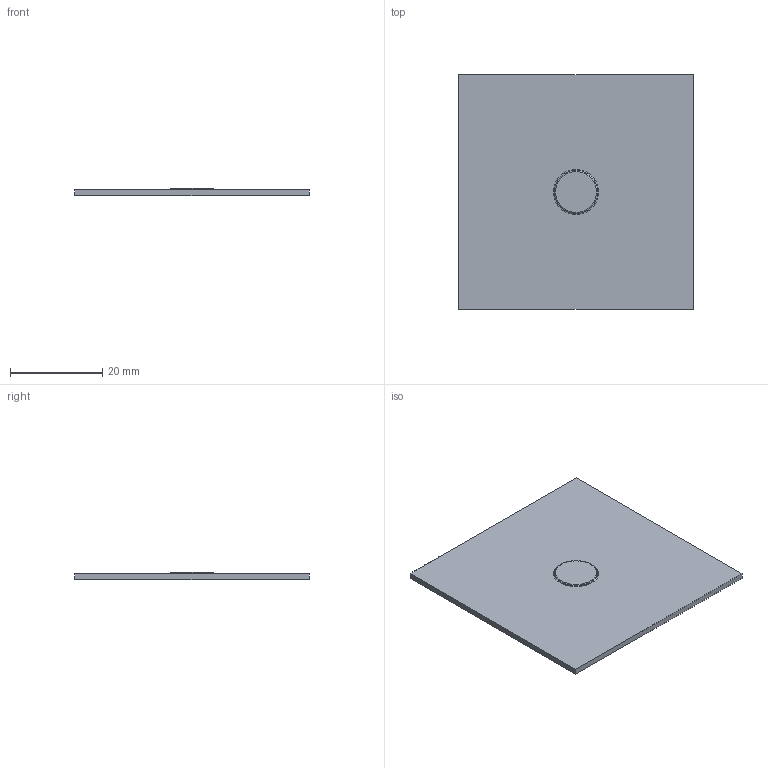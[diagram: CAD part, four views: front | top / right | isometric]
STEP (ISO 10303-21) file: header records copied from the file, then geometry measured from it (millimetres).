
FILE_DESCRIPTION((''),'1');
FILE_NAME('C:/Users/robertnolte/Desktop/WT#453323-10.stp','2012-03-30T00:02:55',(''),(''),'Spatial Interop R21 SP3','Kubotek KeyCreator 2011 V10.5.0 (24766)',' ');
FILE_SCHEMA(('CONFIG_CONTROL_DESIGN'));
Length unit declared in the file: inch
Products named in the file (1): 1
Bounding box: 50.8 x 50.8 x 1.52 mm (x, y, z)
Volume: 3281.1 mm3; surface area: 5423.9 mm2
Topology: 1 solids, 1 shells, 14 faces, 27 edges, 17 vertices
Faces by surface type: plane 8, torus 4, cone 2
Entity records: 360 total; most frequent: DIRECTION 58, CARTESIAN_POINT 51, ORIENTED_EDGE 40, AXIS2_PLACEMENT_3D 23, EDGE_LOOP 22, EDGE_CURVE 20, VERTEX_POINT 16, ADVANCED_FACE 14
